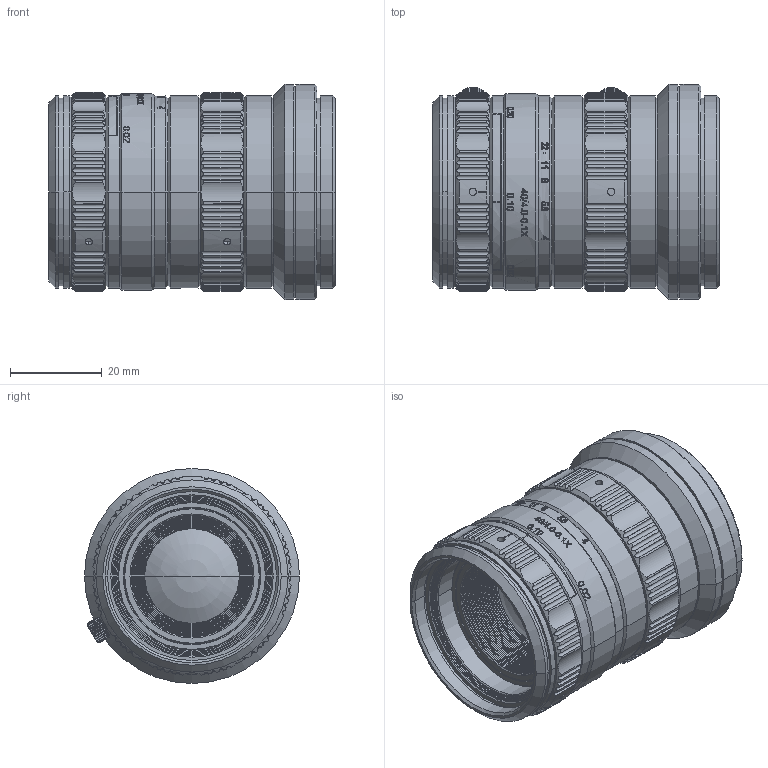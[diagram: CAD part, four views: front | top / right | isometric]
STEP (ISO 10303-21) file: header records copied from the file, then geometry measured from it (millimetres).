
FILE_DESCRIPTION((''),'2;1');
FILE_NAME('OPT-MCT40-4_0-0_1X-V1_0','2024-06-17T19:27:50',('admin'),(''),'CREO PARAMETRIC BY PTC INC, 2020354','CREO PARAMETRIC BY PTC INC, 2020354','');
FILE_SCHEMA(('AUTOMOTIVE_DESIGN { 1 0 10303 214 1 1 1 1 }'));
Length unit declared in the file: millimetre
Products named in the file (1): OPT-MCT40-4_0-0_1X-V1_0
Bounding box: 62.62 x 47 x 47 mm (x, y, z)
Volume: 67766.6 mm3; surface area: 16521 mm2
Topology: 1 solids, 1 shells, 1406 faces, 3975 edges, 2680 vertices
Faces by surface type: cylinder 609, plane 377, bspline 318, cone 81, extrusion 13, sphere 4, torus 4
Entity records: 59620 total; most frequent: CARTESIAN_POINT 26340, ORIENTED_EDGE 7942, DIRECTION 5394, EDGE_CURVE 3971, VERTEX_POINT 2680, AXIS2_PLACEMENT_3D 2019, B_SPLINE_CURVE_WITH_KNOTS 1697, EDGE_LOOP 1519
